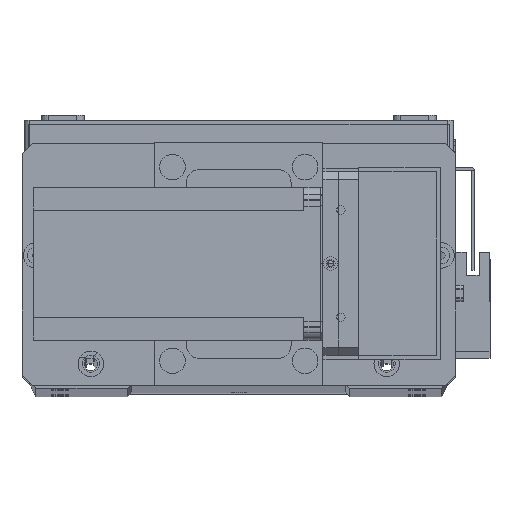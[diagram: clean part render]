
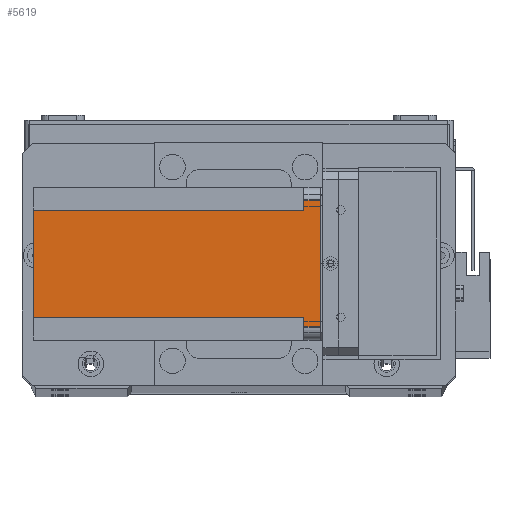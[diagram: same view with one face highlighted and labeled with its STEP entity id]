
A CAD part, top view. The second image highlights one B-rep face of the part: STEP entity #5619.
In plain terms, the highlighted planar face has unit normal (0, 0, 1) as drawn and (-1, 0, 0) by its records, which use the part's own axes.
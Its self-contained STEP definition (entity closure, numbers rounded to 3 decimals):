
#30 = DIRECTION ( 'NONE',  ( 0., 0., -1. ) ) ;
#161 = CARTESIAN_POINT ( 'NONE',  ( 0., 5., -6.5 ) ) ;
#284 = VECTOR ( 'NONE', #13014, 1000. ) ;
#2435 = DIRECTION ( 'NONE',  ( 0., 0., 1. ) ) ;
#3344 = VERTEX_POINT ( 'NONE', #22658 ) ;
#3512 = CARTESIAN_POINT ( 'NONE',  ( 0., 55., -6.5 ) ) ;
#3520 = VERTEX_POINT ( 'NONE', #19881 ) ;
#3549 = LINE ( 'NONE', #16113, #9535 ) ;
#4201 = ORIENTED_EDGE ( 'NONE', *, *, #23074, .F. ) ;
#4324 = VERTEX_POINT ( 'NONE', #24775 ) ;
#5182 = DIRECTION ( 'NONE',  ( 0., -1., 0. ) ) ;
#5619 = ADVANCED_FACE ( 'NONE', ( #17180 ), #20119, .T. ) ;
#5871 = ORIENTED_EDGE ( 'NONE', *, *, #23186, .T. ) ;
#6161 = ORIENTED_EDGE ( 'NONE', *, *, #21567, .F. ) ;
#6663 = CARTESIAN_POINT ( 'NONE',  ( 0., 5., -112.5 ) ) ;
#7143 = LINE ( 'NONE', #15490, #12168 ) ;
#7770 = DIRECTION ( 'NONE',  ( 0., 1., 0. ) ) ;
#8071 = ORIENTED_EDGE ( 'NONE', *, *, #23413, .T. ) ;
#9535 = VECTOR ( 'NONE', #18523, 1000. ) ;
#9884 = ORIENTED_EDGE ( 'NONE', *, *, #23416, .F. ) ;
#9910 = VERTEX_POINT ( 'NONE', #15049 ) ;
#10254 = ORIENTED_EDGE ( 'NONE', *, *, #23510, .F. ) ;
#10522 = CARTESIAN_POINT ( 'NONE',  ( 0., 0., -112.5 ) ) ;
#11240 = VERTEX_POINT ( 'NONE', #26503 ) ;
#11350 = VERTEX_POINT ( 'NONE', #19672 ) ;
#11787 = VECTOR ( 'NONE', #30, 1000. ) ;
#12093 = ORIENTED_EDGE ( 'NONE', *, *, #23620, .T. ) ;
#12168 = VECTOR ( 'NONE', #15598, 1000. ) ;
#12434 = VERTEX_POINT ( 'NONE', #3512 ) ;
#12661 = ORIENTED_EDGE ( 'NONE', *, *, #23665, .F. ) ;
#13014 = DIRECTION ( 'NONE',  ( 0., -1., 0. ) ) ;
#13719 = LINE ( 'NONE', #10522, #284 ) ;
#15049 = CARTESIAN_POINT ( 'NONE',  ( 0., 9., -6.5 ) ) ;
#15299 = VERTEX_POINT ( 'NONE', #161 ) ;
#15490 = CARTESIAN_POINT ( 'NONE',  ( 0., 9., -112.5 ) ) ;
#15598 = DIRECTION ( 'NONE',  ( 0., 0., -1. ) ) ;
#16113 = CARTESIAN_POINT ( 'NONE',  ( 0., 0., -6.5 ) ) ;
#16701 = LINE ( 'NONE', #22449, #29244 ) ;
#17180 = FACE_OUTER_BOUND ( 'NONE', #23749, .T. ) ;
#18187 = LINE ( 'NONE', #19974, #24249 ) ;
#18523 = DIRECTION ( 'NONE',  ( 0., 1., 0. ) ) ;
#19408 = VECTOR ( 'NONE', #31506, 1000. ) ;
#19672 = CARTESIAN_POINT ( 'NONE',  ( 0., 5., 0. ) ) ;
#19881 = CARTESIAN_POINT ( 'NONE',  ( 0., 51., -112.5 ) ) ;
#19974 = CARTESIAN_POINT ( 'NONE',  ( 0., 60., -6.5 ) ) ;
#20119 = PLANE ( 'NONE',  #23432 ) ;
#21567 = EDGE_CURVE ( 'NONE', #11240, #11350, #30931, .T. ) ;
#21877 = DIRECTION ( 'NONE',  ( 0., -1., 0. ) ) ;
#21888 = DIRECTION ( 'NONE',  ( -1., 0., 0. ) ) ;
#22077 = CARTESIAN_POINT ( 'NONE',  ( 0., 0., -112.5 ) ) ;
#22449 = CARTESIAN_POINT ( 'NONE',  ( 0., 51., -112.5 ) ) ;
#22589 = CARTESIAN_POINT ( 'NONE',  ( 0., 0., 0. ) ) ;
#22658 = CARTESIAN_POINT ( 'NONE',  ( 0., 51., -6.5 ) ) ;
#23074 = EDGE_CURVE ( 'NONE', #15299, #9910, #3549, .T. ) ;
#23186 = EDGE_CURVE ( 'NONE', #15299, #11350, #26195, .T. ) ;
#23413 = EDGE_CURVE ( 'NONE', #11240, #12434, #24995, .T. ) ;
#23416 = EDGE_CURVE ( 'NONE', #3344, #12434, #18187, .T. ) ;
#23432 = AXIS2_PLACEMENT_3D ( 'NONE', #22077, #21888, #21877 ) ;
#23510 = EDGE_CURVE ( 'NONE', #3520, #3344, #16701, .T. ) ;
#23620 = EDGE_CURVE ( 'NONE', #3520, #4324, #13719, .T. ) ;
#23665 = EDGE_CURVE ( 'NONE', #9910, #4324, #7143, .T. ) ;
#23749 = EDGE_LOOP ( 'NONE', ( #4201, #5871, #6161, #8071, #9884, #10254, #12093, #12661 ) ) ;
#24249 = VECTOR ( 'NONE', #7770, 1000. ) ;
#24374 = VECTOR ( 'NONE', #5182, 1000. ) ;
#24775 = CARTESIAN_POINT ( 'NONE',  ( 0., 9., -112.5 ) ) ;
#24995 = LINE ( 'NONE', #29950, #11787 ) ;
#26195 = LINE ( 'NONE', #6663, #19408 ) ;
#26503 = CARTESIAN_POINT ( 'NONE',  ( 0., 55., 0. ) ) ;
#29244 = VECTOR ( 'NONE', #2435, 1000. ) ;
#29950 = CARTESIAN_POINT ( 'NONE',  ( 0., 55., -112.5 ) ) ;
#30931 = LINE ( 'NONE', #22589, #24374 ) ;
#31506 = DIRECTION ( 'NONE',  ( 0., 0., 1. ) ) ;
